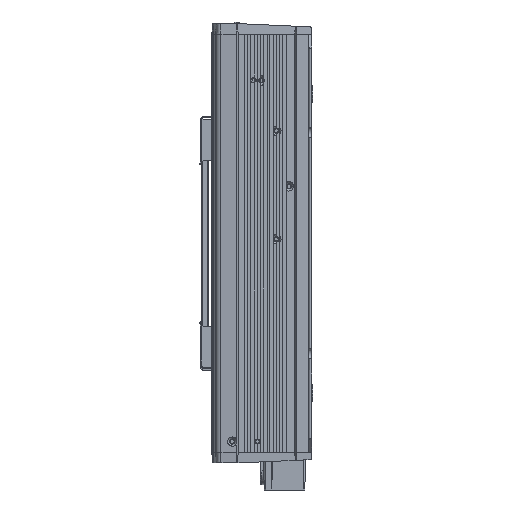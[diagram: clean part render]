
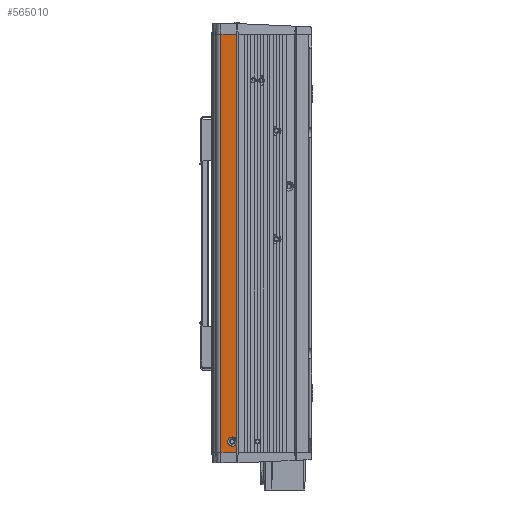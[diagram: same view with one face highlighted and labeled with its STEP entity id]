
A CAD part, left-side view. The second image highlights one B-rep face of the part: STEP entity #565010.
In plain terms, the highlighted planar face has unit normal (-0.995, 0.104, 0).
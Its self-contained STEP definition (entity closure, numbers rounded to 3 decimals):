
#544960=CARTESIAN_POINT('',(1976.316,87.804,68.363))
;
#544970=VERTEX_POINT('',#544960);
#545000=CARTESIAN_POINT('',(1967.087,0.,68.363));
#545010=DIRECTION('',(-0.105,-0.995,0.));
#545020=VECTOR('',#545010,1.);
#545030=LINE('',#545000,#545020);
#545040=CARTESIAN_POINT('',(1975.16,76.805,68.363))
;
#545050=VERTEX_POINT('',#545040);
#545060=EDGE_CURVE('',#544970,#545050,#545030,.T.);
#550680=CARTESIAN_POINT('',(1975.16,76.805,361.251
));
#550690=VERTEX_POINT('',#550680);
#550720=CARTESIAN_POINT('',(1967.087,0.,361.251));
#550730=DIRECTION('',(0.105,0.995,0.));
#550740=VECTOR('',#550730,1.);
#550750=LINE('',#550720,#550740);
#550760=CARTESIAN_POINT('',(1976.316,87.804,361.251));
#550770=VERTEX_POINT('',#550760);
#550780=EDGE_CURVE('',#550690,#550770,#550750,.T.);
#564310=CARTESIAN_POINT('',(1976.316,87.804,361.251));
#564320=DIRECTION('',(0.,0.,-1.));
#564330=VECTOR('',#564320,292.888);
#564340=LINE('',#564310,#564330);
#564350=EDGE_CURVE('',#550770,#544970,#564340,.T.);
#564400=CARTESIAN_POINT('',(1976.603,90.531,122.9));
#564410=DIRECTION('',(0.995,-0.105,0.));
#564420=DIRECTION('',(0.105,0.995,0.));
#564430=AXIS2_PLACEMENT_3D('',#564400,#564410,#564420);
#564440=PLANE('',#564430);
#564450=ORIENTED_EDGE('',*,*,#550780,.T.);
#564460=CARTESIAN_POINT('',(1975.16,76.805,0.));
#564470=DIRECTION('',(0.,0.,-1.));
#564480=VECTOR('',#564470,1.);
#564490=LINE('',#564460,#564480);
#564500=CARTESIAN_POINT('',(1975.16,76.805,
76.806));
#564510=VERTEX_POINT('',#564500);
#564520=EDGE_CURVE('',#550690,#564510,#564490,.T.);
#564530=ORIENTED_EDGE('',*,*,#564520,.F.);
#564540=CARTESIAN_POINT('',(1975.486,79.907,
79.113));
#564550=CARTESIAN_POINT('',(1975.45,79.569,
79.113));
#564560=CARTESIAN_POINT('',(1975.415,79.231,
79.06));
#564570=CARTESIAN_POINT('',(1975.327,78.396,
78.787));
#564580=CARTESIAN_POINT('',(1975.278,77.931,
78.496));
#564590=CARTESIAN_POINT('',(1975.2,77.189,
77.713));
#564600=CARTESIAN_POINT('',(1975.172,76.918,
77.233));
#564610=CARTESIAN_POINT('',(1975.142,76.637,
76.19));
#564620=CARTESIAN_POINT('',(1975.141,76.629,
75.638));
#564630=CARTESIAN_POINT('',(1975.167,76.877,
74.584));
#564640=CARTESIAN_POINT('',(1975.195,77.135,
74.095));
#564650=CARTESIAN_POINT('',(1975.27,77.857,
73.286));
#564660=CARTESIAN_POINT('',(1975.319,78.317,
72.98));
#564670=CARTESIAN_POINT('',(1975.426,79.338,
72.616));
#564680=CARTESIAN_POINT('',(1975.484,79.886,
72.568));
#564690=CARTESIAN_POINT('',(1975.596,80.954,
72.738));
#564700=CARTESIAN_POINT('',(1975.649,81.455,
72.957));
#564710=CARTESIAN_POINT('',(1975.739,82.311,
73.616));
#564720=CARTESIAN_POINT('',(1975.774,82.648,
74.045));
#564730=CARTESIAN_POINT('',(1975.82,83.087,
75.031));
#564740=CARTESIAN_POINT('',(1975.83,83.18,
75.569));
#564750=CARTESIAN_POINT('',(1975.821,83.099,
76.648));
#564760=CARTESIAN_POINT('',(1975.803,82.925,
77.167));
#564770=CARTESIAN_POINT('',(1975.742,82.339,
78.079));
#564780=CARTESIAN_POINT('',(1975.699,81.938,
78.454));
#564790=CARTESIAN_POINT('',(1975.599,80.987,
78.974));
#564800=CARTESIAN_POINT('',(1975.543,80.454,79.113))
;
#564810=CARTESIAN_POINT('',(1975.486,79.907,
79.113));
#564820=B_SPLINE_CURVE_WITH_KNOTS('',3,(#564540,#564550,#564560,#564570,
#564580,#564590,#564600,#564610,#564620,#564630,#564640,#564650,#564660,
#564670,#564680,#564690,#564700,#564710,#564720,#564730,#564740,#564750,
#564760,#564770,#564780,#564790,#564800,#564810),.UNSPECIFIED.,.T.,.F.,(
1,3,2,2,2,2,2,2,2,2,2,2,2,2,3,1),(-1.272,0.,0.786
,2.008,3.203,4.39,5.589,
6.815,8.068,9.343,10.632,
11.928,13.227,14.519,15.791,
16.577),.UNSPECIFIED.);
#564830=CARTESIAN_POINT('',(1975.486,79.907,
79.113));
#564840=VERTEX_POINT('',#564830);
#564850=EDGE_CURVE('',#564840,#564510,#564820,.T.);
#564860=ORIENTED_EDGE('',*,*,#564850,.T.);
#564870=CARTESIAN_POINT('',(1975.516,80.196,
72.625));
#564880=VERTEX_POINT('',#564870);
#564890=EDGE_CURVE('',#564880,#564840,#564820,.T.);
#564900=ORIENTED_EDGE('',*,*,#564890,.T.);
#564910=CARTESIAN_POINT('',(1975.16,76.805,
74.919));
#564920=VERTEX_POINT('',#564910);
#564930=EDGE_CURVE('',#564920,#564880,#564820,.T.);
#564940=ORIENTED_EDGE('',*,*,#564930,.T.);
#564950=EDGE_CURVE('',#564920,#545050,#564490,.T.);
#564960=ORIENTED_EDGE('',*,*,#564950,.F.);
#564970=ORIENTED_EDGE('',*,*,#545060,.T.);
#564980=ORIENTED_EDGE('',*,*,#564350,.T.);
#564990=EDGE_LOOP('',(#564980,#564970,#564960,#564940,#564900,#564860,
#564530,#564450));
#565000=FACE_OUTER_BOUND('',#564990,.T.);
#565010=ADVANCED_FACE('',(#565000),#564440,.F.);
